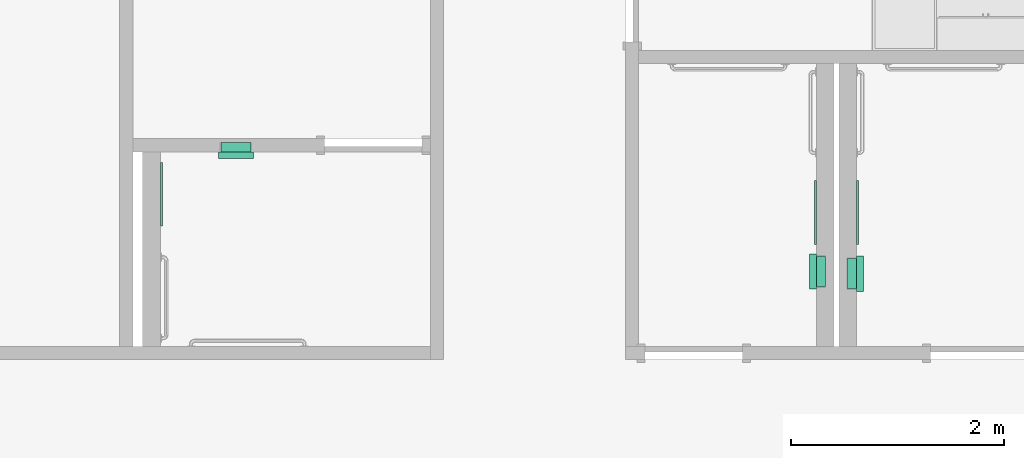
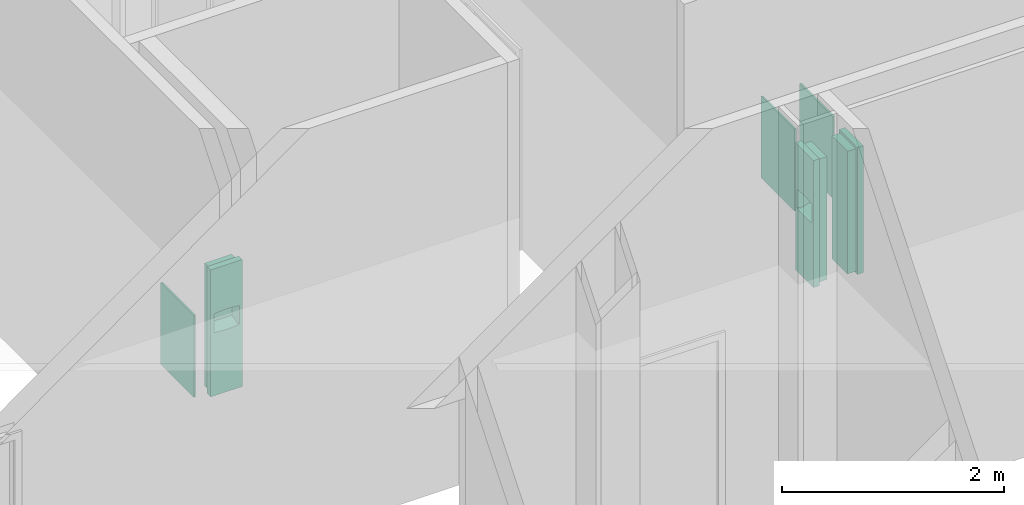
# One storey, part 57 of 87: 6 flow terminals.
"""IFC2X3 building model written with IfcOpenShell, lengths in metres."""

from ifc_helpers import new_model, entity, si_unit, converted_unit, frame, origin, origin_2d_with_axis, place, context, project, spatial, rectangle, extrude, face_set, surface_model, source, transform, mapped, type_object, type_shapes, element, save


model = new_model("IFC2X3")

# Units and contexts
model_context = context("Model", 3, precision=1e-09, world=origin())
plan_context = context("Plan", 3, precision=1e-09, world=origin())
ifc_project = project(units=[si_unit("LENGTHUNIT", "METRE"), si_unit("AREAUNIT", "SQUARE_METRE"), si_unit("VOLUMEUNIT", "CUBIC_METRE"), converted_unit("PLANEANGLEUNIT", "DEGREE", entity("IfcRatioMeasure", 0.01745329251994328), si_unit("PLANEANGLEUNIT", "RADIAN"), dimensions=[0, 0, 0, 0, 0, 0, 0]), si_unit("TIMEUNIT", "SECOND")], contexts=[model_context, plan_context])

# Site, building, storey, space
site_placement = place(None, origin())
site = spatial("IfcSite", under=ifc_project, at=site_placement, Name="Default", CompositionType="ELEMENT")
building_placement = place(site_placement, origin())
building = spatial("IfcBuilding", under=site, at=building_placement, CompositionType="ELEMENT")
storey_placement = place(building_placement, origin())
storey = spatial("IfcBuildingStorey", under=building, at=storey_placement, Name="First Floor", CompositionType="ELEMENT", Elevation=-3.531500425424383e-13)
space_1_placement = place(storey_placement, origin())
space_1 = spatial("IfcSpace", under=storey, at=space_1_placement, Name="1E09", CompositionType="ELEMENT", InteriorOrExteriorSpace="INTERNAL")

# Flow terminal
sanitary_terminal_type_1 = type_object("IfcSanitaryTerminalType", Name="Mirror 600mm x 900mm", PredefinedType="NOTDEFINED")
shared_shape_1 = source(origin(), model_context, "Body", "SweptSolid", [
    extrude(rectangle(XDim=0.01905, YDim=0.5999999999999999, at=origin_2d_with_axis()), frame((0.02447030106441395, 0.093525, 1.0), z_axis=(0.0, 0.0, 1.0), x_axis=(0.0, -1.0, 0.0)), (0.0, 0.0, 1.0), 0.8999999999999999),
])
type_shapes(sanitary_terminal_type_1, [shared_shape_1])
flow_terminal_1_placement = place(space_1_placement, frame((-36.62900000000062, 13.38847030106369, -0.08500000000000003), z_axis=(0.0, 0.0, 1.0), x_axis=(0.0, -1.0, 0.0)))
element("IfcFlowTerminal", 1, at=flow_terminal_1_placement, inside=space_1, type_object=sanitary_terminal_type_1, Name="M_Mirror:Mirror 600mm x 900mm:Mirror 600mm x 900mm", ObjectType="Mirror 600mm x 900mm", context=model_context, shape_type="MappedRepresentation", body=[
    mapped(shared_shape_1, transform((0.0, 0.0, 0.0), scale=1.0)),
])

# Space
space_2_placement = place(storey_placement, origin())
space_2 = spatial("IfcSpace", under=storey, at=space_2_placement, Name="1E10", CompositionType="ELEMENT", InteriorOrExteriorSpace="INTERNAL")

# Flow terminal
flow_terminal_2_placement = place(space_2_placement, frame((-36.84100000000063, 13.33952969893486, -0.08500000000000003), z_axis=(0.0, 0.0, 1.0), x_axis=(0.0, 1.0, 0.0)))
element("IfcFlowTerminal", 2, at=flow_terminal_2_placement, inside=space_2, type_object=sanitary_terminal_type_1, Name="M_Mirror:Mirror 600mm x 900mm:Mirror 600mm x 900mm", ObjectType="Mirror 600mm x 900mm", context=model_context, shape_type="MappedRepresentation", body=[
    mapped(shared_shape_1, transform((0.0, 0.0, 0.0), scale=1.0)),
])

# Space
space_3_placement = place(storey_placement, origin())
space_3 = spatial("IfcSpace", under=storey, at=space_3_placement, Name="1E12", CompositionType="ELEMENT", InteriorOrExteriorSpace="INTERNAL")

# Flow terminals
flow_terminal_3_placement = place(space_3_placement, frame((-43.1770000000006, 13.56047030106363, -0.08500000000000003), z_axis=(0.0, 0.0, 1.0), x_axis=(0.0, -1.0, 0.0)))
element("IfcFlowTerminal", 3, at=flow_terminal_3_placement, inside=space_3, type_object=sanitary_terminal_type_1, Name="M_Mirror:Mirror 600mm x 900mm:Mirror 600mm x 900mm", ObjectType="Mirror 600mm x 900mm", context=model_context, shape_type="MappedRepresentation", body=[
    mapped(shared_shape_1, transform((0.0, 0.0, 0.0), scale=1.0)),
])
sanitary_terminal_type_2 = type_object("IfcSanitaryTerminalType", Name="Semi-Recessed", PredefinedType="NOTDEFINED")
shared_shape_2 = source(origin(), model_context, "Body", "SurfaceModel", [
    surface_model("IfcFaceBasedSurfaceModel", [(0.3047999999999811, 1.371600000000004, 0.006350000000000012), (0.02539999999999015, 1.371600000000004, 0.006350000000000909), (0.02539999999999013, 0.02540000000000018, 0.006350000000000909), (0.3047999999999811, 0.02540000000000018, 0.006350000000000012), (0.3047999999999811, 1.371600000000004, 0.0), (0.02539999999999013, 1.371600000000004, 0.0), (0.02539999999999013, 0.02540000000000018, 0.0), (0.3047999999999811, 0.02540000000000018, 0.0), (0.3047999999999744, 0.8683625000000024, 0.0314087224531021), (0.304799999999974, 0.8683625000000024, 0.0), (0.304799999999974, 1.371600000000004, 0.0), (0.3047999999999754, 1.371600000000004, 0.1396999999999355), (0.3047999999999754, 0.9274310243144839, 0.139699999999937), (0.3047999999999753, 0.9028355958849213, 0.1191121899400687), (0.304799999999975, 0.8840898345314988, 0.09308548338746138), (0.3047999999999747, 0.8723562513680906, 0.06323391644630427), (0.02539999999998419, 0.8683625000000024, 0.03140872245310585), (0.02539999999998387, 0.8683625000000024, 0.0), (0.02539999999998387, 1.371600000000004, 0.0), (0.02539999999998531, 1.371600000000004, 0.1396999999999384), (0.02539999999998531, 0.9274310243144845, 0.1396999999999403), (0.02539999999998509, 0.9028355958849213, 0.1191121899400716), (0.02539999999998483, 0.8840898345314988, 0.09308548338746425), (0.02539999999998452, 0.8723562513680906, 0.06323391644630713), (0.1650999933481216, 0.8971245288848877, 0.1125374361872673), (0.244423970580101, 0.8850007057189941, 0.0947267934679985), (0.3048000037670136, 0.8934627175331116, 0.1060988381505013), (0.225727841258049, 0.8897196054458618, 0.1024402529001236), (0.1240624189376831, 0.8936511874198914, 0.1080563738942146), (0.1443802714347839, 0.89626145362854, 0.1114614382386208), (0.02539999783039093, 0.8934627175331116, 0.1060988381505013), (0.2975995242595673, 0.8728225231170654, 0.06500939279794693), (0.2961554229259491, 0.8724397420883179, 0.06352298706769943), (0.08576729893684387, 0.8849983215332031, 0.09472260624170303), (0.05923719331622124, 0.8781034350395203, 0.0805450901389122), (0.06810294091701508, 0.8800443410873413, 0.08500713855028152), (0.02539999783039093, 0.8811564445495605, 0.08562259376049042), (0.03954862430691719, 0.8766331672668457, 0.07681932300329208), (0.04958875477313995, 0.8769928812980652, 0.07776296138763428), (0.02539999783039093, 0.8782230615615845, 0.07815969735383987), (0.03264534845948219, 0.875198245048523, 0.07281118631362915), (0.02539999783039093, 0.8767563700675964, 0.0744282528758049), (0.02539999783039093, 0.87602299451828, 0.07256253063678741), (0.2946777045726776, 0.8762261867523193, 0.07572414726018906), (0.3048000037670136, 0.8767563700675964, 0.0744282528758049), (0.3048000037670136, 0.8774896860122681, 0.07629397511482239), (0.2906513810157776, 0.8717893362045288, 0.0609215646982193), (0.3048000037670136, 0.871357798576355, 0.05527761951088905), (0.3048000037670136, 0.8718570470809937, 0.05925576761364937), (0.02539999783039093, 0.874556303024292, 0.06883108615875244), (0.03170676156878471, 0.8735430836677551, 0.0675705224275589), (0.03171554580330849, 0.8739543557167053, 0.06892137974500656), (0.104461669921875, 0.889717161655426, 0.1024366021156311), (0.02539999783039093, 0.8752896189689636, 0.07069680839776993), (0.03172433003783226, 0.8743656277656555, 0.07027223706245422), (0.03218483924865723, 0.8747819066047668, 0.07154171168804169), (0.185808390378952, 0.8962624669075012, 0.1114626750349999), (0.3048000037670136, 0.8703593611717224, 0.04732131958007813), (0.2280749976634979, 0.8709259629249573, 0.05697767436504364), (0.2061262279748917, 0.8936530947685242, 0.1080589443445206), (0.3048000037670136, 0.8752896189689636, 0.07069680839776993), (0.297547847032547, 0.8752022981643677, 0.07282306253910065), (0.2980738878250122, 0.8745774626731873, 0.0708826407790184), (0.2985999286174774, 0.8739525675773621, 0.06894221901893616), (0.3048000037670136, 0.874556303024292, 0.06883108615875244), (0.2709419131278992, 0.8781068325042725, 0.08055329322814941), (0.3048000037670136, 0.8811564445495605, 0.08562259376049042), (0.2620970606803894, 0.8800443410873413, 0.08500713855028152), (0.2805894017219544, 0.8769944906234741, 0.07776710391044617), (0.3048000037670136, 0.8782230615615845, 0.07815969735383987), (0.03435983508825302, 0.8722586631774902, 0.06284872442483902), (0.02539999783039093, 0.872106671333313, 0.06124484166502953), (0.0367727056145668, 0.8719081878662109, 0.06142202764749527), (0.2906513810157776, 0.8766331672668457, 0.07681932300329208), (0.02539999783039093, 0.8718570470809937, 0.05925576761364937), (0.3048000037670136, 0.8738229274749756, 0.06696536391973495), (0.2980997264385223, 0.8733875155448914, 0.06697580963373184), (0.3048000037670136, 0.872106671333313, 0.06124484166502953), (0.2947112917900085, 0.8720570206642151, 0.06203658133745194), (0.02539999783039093, 0.8738229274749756, 0.06696536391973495), (0.3048000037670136, 0.873089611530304, 0.06509964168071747), (0.02539999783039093, 0.8774896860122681, 0.07629397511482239), (0.03438528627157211, 0.8759323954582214, 0.07491400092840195), (0.03677724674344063, 0.8764464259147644, 0.07632055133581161), (0.03261014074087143, 0.8728178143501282, 0.0649920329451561), (0.02539999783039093, 0.8703593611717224, 0.04732131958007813), (0.1650999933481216, 0.8683624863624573, 0.03140872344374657), (0.03954862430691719, 0.8717893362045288, 0.0609215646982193), (0.1021250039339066, 0.8709259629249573, 0.05697767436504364), (0.02539999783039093, 0.871357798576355, 0.05527761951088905), (0.02539999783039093, 0.873089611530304, 0.06509964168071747), (0.2961127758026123, 0.8757142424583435, 0.07427360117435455), (0.3048000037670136, 0.87602299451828, 0.07256253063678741), (0.1650999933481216, 0.8701865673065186, 0.05300865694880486), (0.03954862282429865, 0.9617593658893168, 0.06092156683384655), (0.1650999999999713, 0.9617593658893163, 0.05300865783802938), (0.2906513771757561, 0.9617593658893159, 0.06092156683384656), (0.2927086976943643, 0.9617593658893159, 0.06119241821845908), (0.2946258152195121, 0.9617593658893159, 0.06198651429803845), (0.2962720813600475, 0.9617593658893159, 0.06324973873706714), (0.2975353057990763, 0.9617593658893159, 0.06489600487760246), (0.2983294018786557, 0.9617593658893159, 0.06681312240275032), (0.2986002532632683, 0.9617593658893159, 0.06887044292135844), (0.2983294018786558, 0.9617593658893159, 0.07092776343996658), (0.2975353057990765, 0.9617593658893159, 0.0728448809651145), (0.2962720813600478, 0.9617593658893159, 0.07449114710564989), (0.2946258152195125, 0.9617593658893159, 0.07575437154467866), (0.2927086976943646, 0.9617593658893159, 0.07654846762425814), (0.2906513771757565, 0.9617593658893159, 0.07681931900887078), (0.2806776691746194, 0.9617593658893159, 0.07775040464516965), (0.2710486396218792, 0.9617593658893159, 0.0805114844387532), (0.2620970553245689, 0.9617593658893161, 0.0850071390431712), (0.2316919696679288, 0.9617593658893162, 0.1002429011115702), (0.1989754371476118, 0.9617593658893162, 0.1095287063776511), (0.1651000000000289, 0.9617593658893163, 0.1125374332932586), (0.1312245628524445, 0.9617593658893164, 0.109528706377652), (0.09850803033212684, 0.9617593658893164, 0.1002429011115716), (0.06810294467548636, 0.9617593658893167, 0.08500713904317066), (0.05915136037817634, 0.9617593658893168, 0.08051148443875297), (0.04952233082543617, 0.9617593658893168, 0.07775040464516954), (0.03954862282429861, 0.9617593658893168, 0.07681931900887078), (0.03749130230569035, 0.9617593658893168, 0.0765484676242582), (0.03557418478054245, 0.9617593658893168, 0.07575437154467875), (0.03392791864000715, 0.9617593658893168, 0.07449114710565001), (0.03266469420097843, 0.9617593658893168, 0.07284488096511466), (0.03187059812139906, 0.9617593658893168, 0.07092776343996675), (0.03159974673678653, 0.9617593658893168, 0.06887044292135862), (0.03187059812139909, 0.9617593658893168, 0.06681312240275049), (0.03266469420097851, 0.9617593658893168, 0.0648960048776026), (0.03392791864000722, 0.9617593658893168, 0.06324973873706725), (0.03557418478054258, 0.9617593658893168, 0.06198651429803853), (0.03749130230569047, 0.9617593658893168, 0.06119241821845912), (0.3302000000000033, 1.397000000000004, 0.1523999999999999), (0.0, 1.397000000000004, 0.152400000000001), (0.0, 0.0, 0.152400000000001), (0.3302000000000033, 0.0, 0.1523999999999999), (0.03175000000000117, 0.7016793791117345, 0.1524000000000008), (0.03175000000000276, 0.8960819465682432, 0.1524000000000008), (0.03192255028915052, 0.8975521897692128, 0.1524000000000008), (0.03243082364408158, 0.8989425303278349, 0.1524000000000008), (0.03324719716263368, 0.9001774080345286, 0.1524000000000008), (0.03432730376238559, 0.9011897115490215, 0.1524000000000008), (0.03561244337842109, 0.9019244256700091, 0.1524000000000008), (0.03703277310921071, 0.9023416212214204, 0.1524000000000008), (0.1222300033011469, 0.9119737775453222, 0.1524000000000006), (0.2079699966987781, 0.911973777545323, 0.1524000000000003), (0.2931672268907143, 0.902341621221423, 0.1524), (0.2945875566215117, 0.9019244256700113, 0.1524), (0.2958726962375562, 0.9011897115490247, 0.1524), (0.2969528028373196, 0.9001774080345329, 0.1524), (0.297769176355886, 0.8989425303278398, 0.1524), (0.2982774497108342, 0.8975521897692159, 0.1524), (0.2984500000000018, 0.8960819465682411, 0.1524), (0.2984500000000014, 0.7016793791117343, 0.1524), (0.2982774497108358, 0.7002091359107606, 0.1524), (0.2977691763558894, 0.6988187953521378, 0.1524), (0.2969528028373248, 0.697583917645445, 0.1524), (0.2958726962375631, 0.6965716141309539, 0.1524), (0.29458755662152, 0.6958369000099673, 0.1524), (0.2931672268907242, 0.6954197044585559, 0.1524), (0.2079699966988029, 0.6857875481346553, 0.1524000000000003), (0.1222300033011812, 0.6857875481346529, 0.1524000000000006), (0.03703277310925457, 0.6954197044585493, 0.1524000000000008), (0.03561244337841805, 0.6958369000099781, 0.1524000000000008), (0.0343273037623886, 0.6965716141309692, 0.1524000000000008), (0.03324719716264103, 0.6975839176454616, 0.1524000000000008), (0.03243082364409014, 0.698818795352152, 0.1524000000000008), (0.03192255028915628, 0.7002091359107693, 0.1524000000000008), (0.3063874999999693, 1.373187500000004, 0.0), (0.02381249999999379, 1.373187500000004, 0.0), (0.02381249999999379, 0.02381250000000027, 0.0), (0.3063874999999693, 0.02381250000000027, 0.0), (0.3047999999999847, 1.371600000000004, 0.0), (0.3047999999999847, 0.02540000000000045, 0.0), (0.02539999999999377, 0.02540000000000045, 0.0), (0.02539999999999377, 1.371600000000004, 0.0), (0.304799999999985, 1.371600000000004, 0.08889999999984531), (0.3047999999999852, 1.371600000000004, 0.1396999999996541), (0.3047999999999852, 0.02540000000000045, 0.1396999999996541), (0.304799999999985, 0.02540000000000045, 0.08889999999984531), (0.02539999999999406, 0.02540000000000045, 0.08889999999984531), (0.02539999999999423, 0.02540000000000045, 0.139699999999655), (0.02539999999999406, 1.371600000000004, 0.08889999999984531), (0.02539999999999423, 1.371600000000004, 0.139699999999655), (0.02381249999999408, 1.373187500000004, 0.08889999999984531), (0.3063874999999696, 1.373187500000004, 0.08889999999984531), (0.02381249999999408, 0.02381250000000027, 0.08889999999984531), (0.3063874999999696, 0.02381250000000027, 0.08889999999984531), (0.3302000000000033, 1.397000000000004, 0.08889999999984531), (0.0, 1.397000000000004, 0.08889999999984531), (0.0, 0.0, 0.08889999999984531), (0.3302000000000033, 0.0, 0.08889999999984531), (0.3302000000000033, 1.397000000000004, 0.1396999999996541), (0.0, 1.397000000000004, 0.1396999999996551), (0.0, 0.0, 0.1396999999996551), (0.3302000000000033, 0.0, 0.1396999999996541), (0.0317500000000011, 0.7016793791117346, 0.139699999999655), (0.03175000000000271, 0.8960819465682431, 0.139699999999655), (0.03192255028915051, 0.8975521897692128, 0.139699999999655), (0.03243082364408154, 0.8989425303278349, 0.139699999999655), (0.03324719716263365, 0.9001774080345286, 0.139699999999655), (0.03432730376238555, 0.9011897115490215, 0.139699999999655), (0.03561244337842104, 0.9019244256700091, 0.139699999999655), (0.03703277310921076, 0.9023416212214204, 0.139699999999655), (0.1222300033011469, 0.9119737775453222, 0.1396999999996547), (0.207969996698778, 0.911973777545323, 0.1396999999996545), (0.2931672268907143, 0.902341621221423, 0.1396999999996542), (0.2945875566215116, 0.9019244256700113, 0.1396999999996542), (0.2958726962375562, 0.9011897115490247, 0.1396999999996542), (0.2969528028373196, 0.9001774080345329, 0.1396999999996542), (0.2977691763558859, 0.8989425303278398, 0.1396999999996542), (0.2982774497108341, 0.8975521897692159, 0.1396999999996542), (0.2984500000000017, 0.8960819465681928, 0.1396999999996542), (0.2984500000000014, 0.7016793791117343, 0.1396999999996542), (0.2982774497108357, 0.7002091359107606, 0.1396999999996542), (0.2977691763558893, 0.6988187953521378, 0.1396999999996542), (0.2969528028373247, 0.697583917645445, 0.1396999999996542), (0.295872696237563, 0.6965716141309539, 0.1396999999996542), (0.29458755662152, 0.6958369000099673, 0.1396999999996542), (0.2931672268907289, 0.6954197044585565, 0.1396999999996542), (0.2079699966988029, 0.6857875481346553, 0.1396999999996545), (0.1222300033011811, 0.6857875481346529, 0.1396999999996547), (0.0370327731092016, 0.6954197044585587, 0.139699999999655), (0.03561244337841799, 0.6958369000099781, 0.139699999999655), (0.03432730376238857, 0.6965716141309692, 0.139699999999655), (0.03324719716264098, 0.6975839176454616, 0.139699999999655), (0.03243082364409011, 0.698818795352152, 0.139699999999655), (0.03192255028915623, 0.7002091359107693, 0.139699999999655), (0.02698749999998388, 0.6774923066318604, 0.1206361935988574), (0.02698749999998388, 0.6858000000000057, 0.1206361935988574), (0.02698749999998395, 0.6858000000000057, 0.1397000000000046), (0.02698749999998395, 0.0253999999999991, 0.1397000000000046), (0.02698749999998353, 0.0253999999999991, 0.007937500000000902), (0.02698749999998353, 0.7076898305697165, 0.007937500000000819), (0.3032124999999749, 0.6774923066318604, 0.1206361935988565), (0.3032124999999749, 0.6858000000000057, 0.1206361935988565), (0.3032124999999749, 0.6858000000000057, 0.1397000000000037), (0.3032124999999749, 0.0253999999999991, 0.1397000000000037), (0.3032124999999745, 0.0253999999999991, 0.007937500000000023), (0.3032124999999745, 0.7076898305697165, 0.007937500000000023)], [face_set([[[0, 1, 2, 3]], [[4, 5, 6, 7]], [[1, 0, 4, 5]], [[2, 6, 5, 1]], [[3, 7, 6, 2]], [[0, 3, 7, 4]]]), face_set([[[8, 9, 10, 11, 12, 13, 14, 15]], [[16, 17, 18, 19, 20, 21, 22, 23]], [[9, 8, 16, 17]], [[10, 18, 17, 9]], [[11, 19, 18, 10]], [[12, 11, 19, 20]], [[24, 20, 21]], [[25, 26, 27]], [[28, 29, 21]], [[28, 21, 30]], [[15, 31, 32]], [[22, 33, 30]], [[24, 21, 29]], [[34, 35, 36]], [[37, 38, 39]], [[40, 41, 42]], [[39, 38, 34]], [[22, 35, 33]], [[39, 34, 36]], [[43, 44, 45]], [[46, 47, 48]], [[49, 50, 51]], [[33, 52, 30]], [[53, 54, 55]], [[24, 56, 13]], [[57, 47, 58]], [[24, 13, 12]], [[13, 56, 59]], [[59, 27, 26]], [[60, 61, 62]], [[62, 63, 64]], [[24, 12, 20]], [[55, 42, 53]], [[65, 66, 67]], [[25, 67, 14]], [[25, 14, 26]], [[65, 68, 69]], [[66, 65, 69]], [[70, 71, 72]], [[69, 68, 73]], [[72, 71, 74]], [[26, 13, 59]], [[54, 53, 49]], [[64, 60, 62]], [[75, 63, 76]], [[46, 77, 78]], [[79, 50, 49]], [[80, 76, 31]], [[39, 81, 37]], [[41, 82, 81]], [[49, 51, 54]], [[81, 82, 83]], [[40, 82, 41]], [[70, 84, 23]], [[84, 50, 79]], [[85, 16, 86]], [[28, 30, 52]], [[70, 23, 71]], [[87, 72, 74]], [[85, 88, 89]], [[87, 89, 88]], [[74, 89, 87]], [[84, 90, 23]], [[58, 47, 46]], [[35, 22, 36]], [[63, 75, 64]], [[91, 61, 92]], [[45, 73, 43]], [[80, 75, 76]], [[61, 60, 92]], [[15, 32, 78]], [[45, 69, 73]], [[92, 44, 91]], [[66, 14, 67]], [[84, 79, 90]], [[85, 93, 88]], [[86, 57, 93]], [[31, 15, 80]], [[77, 15, 78]], [[42, 55, 40]], [[58, 93, 57]], [[77, 46, 48]], [[8, 57, 86]], [[37, 81, 83]], [[44, 43, 91]], [[85, 86, 93]], [[94, 95, 96, 97, 98, 99, 100, 101, 102, 103, 104, 105, 106, 107, 108, 109, 110, 111, 112, 113, 114, 115, 116, 117, 118, 119, 120, 121, 122, 123, 124, 125, 126, 127, 128, 129, 130, 131]], [[95, 94, 87, 88, 93]], [[96, 95, 93, 58, 46]], [[46, 96, 97]], [[78, 98, 99]], [[97, 98, 78]], [[99, 100, 31]], [[46, 97, 78]], [[63, 31, 101]], [[31, 78, 99]], [[63, 101, 102]], [[101, 31, 100]], [[61, 104, 105]], [[43, 106, 107]], [[105, 106, 43]], [[73, 107, 108]], [[63, 103, 61]], [[103, 63, 102]], [[61, 103, 104]], [[61, 105, 43]], [[107, 73, 43]], [[108, 68, 73]], [[68, 108, 109]], [[109, 65, 68]], [[110, 67, 65]], [[67, 110, 111]], [[109, 110, 65]], [[111, 112, 25]], [[25, 67, 111]], [[27, 25, 112]], [[112, 59, 27]], [[113, 114, 56]], [[56, 59, 113]], [[24, 56, 114]], [[113, 59, 112]], [[114, 115, 29]], [[29, 24, 114]], [[28, 29, 115]], [[115, 116, 28]], [[116, 117, 33]], [[33, 52, 116]], [[35, 33, 117]], [[116, 52, 28]], [[118, 34, 35]], [[35, 117, 118]], [[118, 119, 34]], [[120, 37, 38]], [[38, 119, 120]], [[34, 119, 38]], [[37, 120, 121]], [[82, 122, 123]], [[121, 122, 83]], [[123, 124, 40]], [[37, 121, 83]], [[83, 122, 82]], [[40, 125, 54]], [[40, 82, 123]], [[54, 125, 126]], [[40, 124, 125]], [[84, 127, 128]], [[129, 84, 128]], [[72, 130, 131]], [[129, 130, 70]], [[87, 131, 94]], [[127, 50, 126]], [[127, 84, 50]], [[126, 50, 54]], [[70, 84, 129]], [[130, 72, 70]], [[131, 87, 72]]]), face_set([[[132, 133, 134, 135], [136, 137, 138, 139, 140, 141, 142, 143, 144, 145, 146, 147, 148, 149, 150, 151, 152, 153, 154, 155, 156, 157, 158, 159, 160, 161, 162, 163, 164, 165, 166, 167]], [[168, 169, 170, 171], [172, 173, 174, 175]], [[172, 176, 177, 178, 179, 173]], [[173, 174, 180, 181, 178, 179]], [[174, 175, 182, 183, 181, 180]], [[175, 182, 183, 177, 176, 172]], [[168, 169, 184, 185]], [[169, 184, 186, 170]], [[170, 186, 187, 171]], [[171, 168, 185, 187]], [[188, 189, 190, 191], [185, 187, 186, 184]], [[133, 132, 192, 188, 189, 193]], [[134, 133, 193, 189, 190, 194]], [[135, 134, 194, 190, 191, 195]], [[132, 135, 195, 191, 188, 192]], [[177, 183, 181, 178], [196, 197, 198, 199, 200, 201, 202, 203, 204, 205, 206, 207, 208, 209, 210, 211, 212, 213, 214, 215, 216, 217, 218, 219, 220, 221, 222, 223, 224, 225, 226, 227]], [[137, 136, 196, 197]], [[198, 197, 137, 138]], [[199, 198, 138, 139]], [[139, 140, 200, 199]], [[202, 201, 141, 142]], [[203, 202, 142, 143]], [[140, 141, 201, 200]], [[203, 143, 144, 204]], [[145, 205, 204, 144]], [[205, 145, 146, 206]], [[207, 206, 146, 147]], [[208, 207, 147, 148]], [[148, 149, 209, 208]], [[212, 211, 151, 152]], [[211, 210, 150, 151]], [[149, 150, 210, 209]], [[153, 213, 212, 152]], [[214, 213, 153, 154]], [[215, 214, 154, 155]], [[155, 156, 216, 215]], [[218, 217, 157, 158]], [[219, 218, 158, 159]], [[156, 157, 217, 216]], [[219, 159, 160, 220]], [[161, 221, 220, 160]], [[221, 161, 162, 222]], [[223, 222, 162, 163]], [[224, 223, 163, 164]], [[164, 165, 225, 224]], [[227, 226, 166, 167]], [[196, 227, 167, 136]], [[165, 166, 226, 225]]]), face_set([[[228, 229, 230, 231, 232, 233]], [[234, 235, 236, 237, 238, 239]], [[233, 228, 234, 239]], [[232, 238, 239, 233]], [[231, 237, 238, 232]], [[230, 231, 237, 236]], [[229, 230, 236, 235]], [[228, 234, 235, 229]]])]),
])
type_shapes(sanitary_terminal_type_2, [shared_shape_2])
flow_terminal_4_placement = place(space_2_placement, frame((-36.83610000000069, 12.9741999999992, 0.3428999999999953), z_axis=(-1.0, 0.0, 0.0), x_axis=(0.0, -1.0, 0.0)))
element("IfcFlowTerminal", 4, at=flow_terminal_4_placement, inside=space_2, type_object=sanitary_terminal_type_2, Name="M_Towel Dispensers - receptical:Semi-Recessed:Semi-Recessed", ObjectType="Semi-Recessed", context=model_context, shape_type="MappedRepresentation", body=[
    mapped(shared_shape_2, transform((0.0, 0.0, 0.0), scale=1.0)),
])
flow_terminal_5_placement = place(space_1_placement, frame((-36.63390000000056, 12.62399999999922, 0.3428999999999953), z_axis=(1.0, 0.0, 0.0), x_axis=(0.0, 1.0, 0.0)))
element("IfcFlowTerminal", 5, at=flow_terminal_5_placement, inside=space_1, type_object=sanitary_terminal_type_2, Name="M_Towel Dispensers - receptical:Semi-Recessed:Semi-Recessed", ObjectType="Semi-Recessed", context=model_context, shape_type="MappedRepresentation", body=[
    mapped(shared_shape_2, transform((0.0, 0.0, 0.0), scale=1.0)),
])
flow_terminal_6_placement = place(space_3_placement, frame((-42.55020000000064, 14.02489999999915, 0.3428999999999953), z_axis=(0.0, -1.0, 0.0), x_axis=(1.0, 0.0, 0.0)))
element("IfcFlowTerminal", 6, at=flow_terminal_6_placement, inside=space_3, type_object=sanitary_terminal_type_2, Name="M_Towel Dispensers - receptical:Semi-Recessed:Semi-Recessed", ObjectType="Semi-Recessed", context=model_context, shape_type="MappedRepresentation", body=[
    mapped(shared_shape_2, transform((0.0, 0.0, 0.0), scale=1.0)),
])

save(model, "model.ifc")
